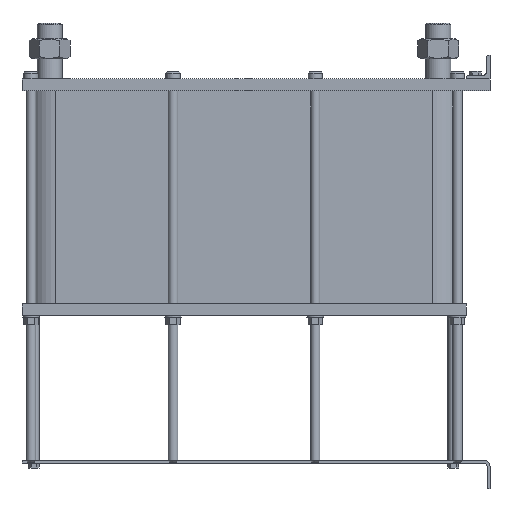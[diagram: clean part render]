
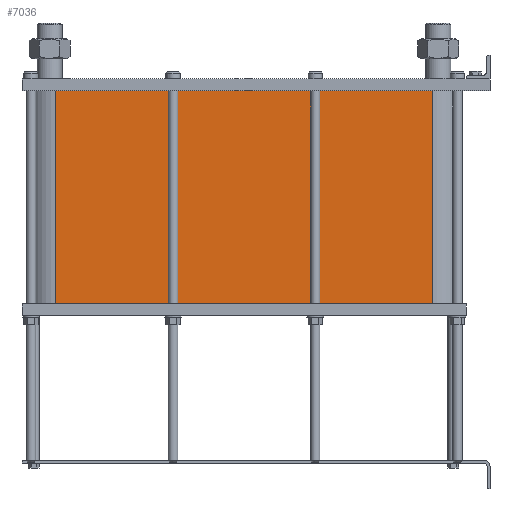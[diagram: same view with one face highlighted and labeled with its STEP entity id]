
A CAD part, left-side view. The second image highlights one B-rep face of the part: STEP entity #7036.
In plain terms, the highlighted planar face has unit normal (-1, 0, 0).
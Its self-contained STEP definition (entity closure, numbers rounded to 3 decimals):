
#999=LINE('',#15640,#1553);
#1031=LINE('',#15723,#1585);
#1032=LINE('',#15726,#1586);
#1033=LINE('',#15727,#1587);
#1553=VECTOR('',#9658,10.);
#1585=VECTOR('',#9736,10.);
#1586=VECTOR('',#9741,10.);
#1587=VECTOR('',#9742,10.);
#2117=FACE_OUTER_BOUND('',#2671,.T.);
#2671=EDGE_LOOP('',(#6246,#6247,#6248,#6249));
#3527=VERTEX_POINT('',#15634);
#3529=VERTEX_POINT('',#15638);
#3556=VERTEX_POINT('',#15720);
#3557=VERTEX_POINT('',#15722);
#4425=EDGE_CURVE('',#3529,#3527,#999,.T.);
#4466=EDGE_CURVE('',#3557,#3556,#1031,.T.);
#4468=EDGE_CURVE('',#3527,#3556,#1032,.T.);
#4469=EDGE_CURVE('',#3557,#3529,#1033,.T.);
#6246=ORIENTED_EDGE('',*,*,#4468,.F.);
#6247=ORIENTED_EDGE('',*,*,#4425,.F.);
#6248=ORIENTED_EDGE('',*,*,#4469,.F.);
#6249=ORIENTED_EDGE('',*,*,#4466,.T.);
#6608=PLANE('',#7812);
#7036=ADVANCED_FACE('',(#2117),#6608,.T.);
#7812=AXIS2_PLACEMENT_3D('',#15725,#9739,#9740);
#9658=DIRECTION('',(0.,0.,-1.));
#9736=DIRECTION('',(0.,0.,-1.));
#9739=DIRECTION('center_axis',(-1.,0.,0.));
#9740=DIRECTION('ref_axis',(0.,1.,0.));
#9741=DIRECTION('',(0.,1.,0.));
#9742=DIRECTION('',(0.,-1.,0.));
#15634=CARTESIAN_POINT('',(-72.,97.5,-359.6));
#15638=CARTESIAN_POINT('',(-72.,97.5,0.));
#15640=CARTESIAN_POINT('',(-72.,97.5,0.));
#15720=CARTESIAN_POINT('',(-72.,733.5,-359.6));
#15722=CARTESIAN_POINT('',(-72.,733.5,0.));
#15723=CARTESIAN_POINT('',(-72.,733.5,0.));
#15725=CARTESIAN_POINT('Origin',(-72.,97.5,0.));
#15726=CARTESIAN_POINT('',(-72.,256.5,-359.6));
#15727=CARTESIAN_POINT('',(-72.,733.5,0.));
